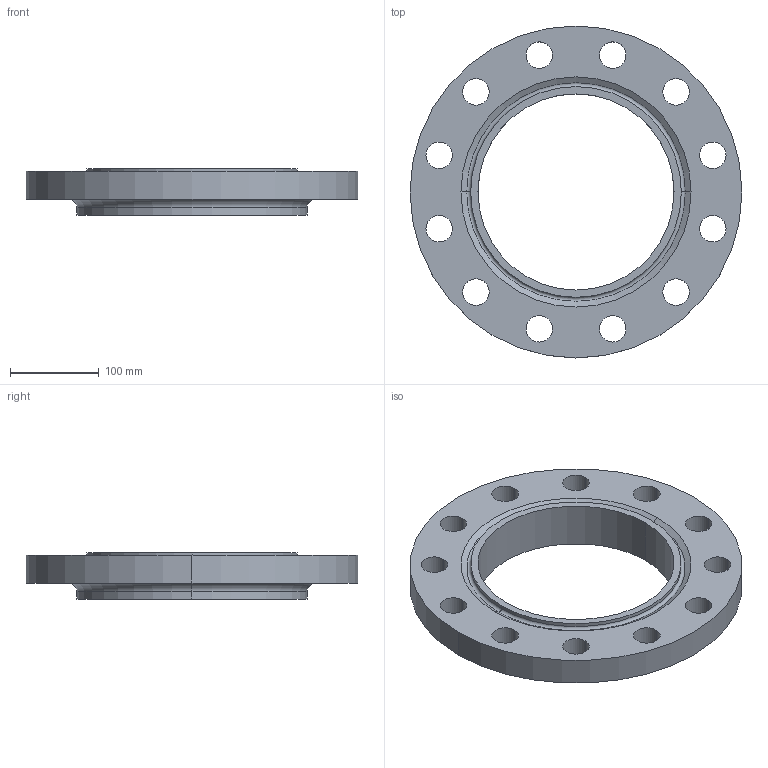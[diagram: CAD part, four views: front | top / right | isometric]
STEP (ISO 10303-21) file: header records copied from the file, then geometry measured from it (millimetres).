
FILE_DESCRIPTION (( 'STEP AP214' ), '1' );
FILE_NAME ('PN40 DN200 Type 12 - Type H Face.STEP', '2019-01-05T02:10:58', ( '' ), ( '' ), 'SwSTEP 2.0', 'SolidWorks 2019', '' );
FILE_SCHEMA (( 'AUTOMOTIVE_DESIGN' ));
Length unit declared in the file: millimetre
Products named in the file (1): PN40 DN200 Type 12 - Type H Face
Bounding box: 375 x 375 x 52 mm (x, y, z)
Volume: 2268514.9 mm3; surface area: 252296.7 mm2
Topology: 1 solids, 1 shells, 42 faces, 108 edges, 70 vertices
Faces by surface type: cylinder 32, torus 4, plane 4, cone 2
Entity records: 1404 total; most frequent: DIRECTION 268, CARTESIAN_POINT 221, ORIENTED_EDGE 216, AXIS2_PLACEMENT_3D 117, EDGE_CURVE 108, CIRCLE 74, VERTEX_POINT 70, EDGE_LOOP 70
